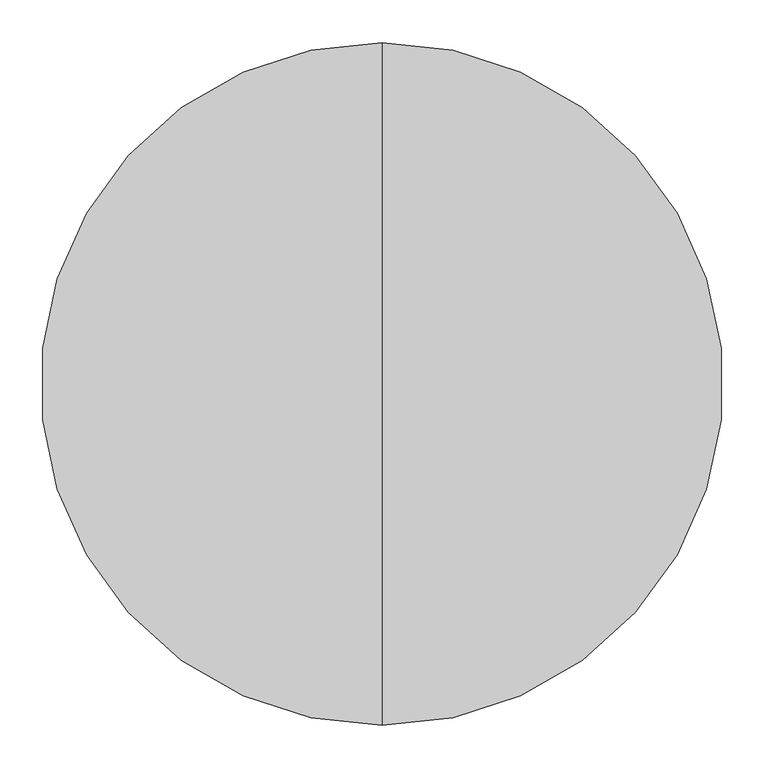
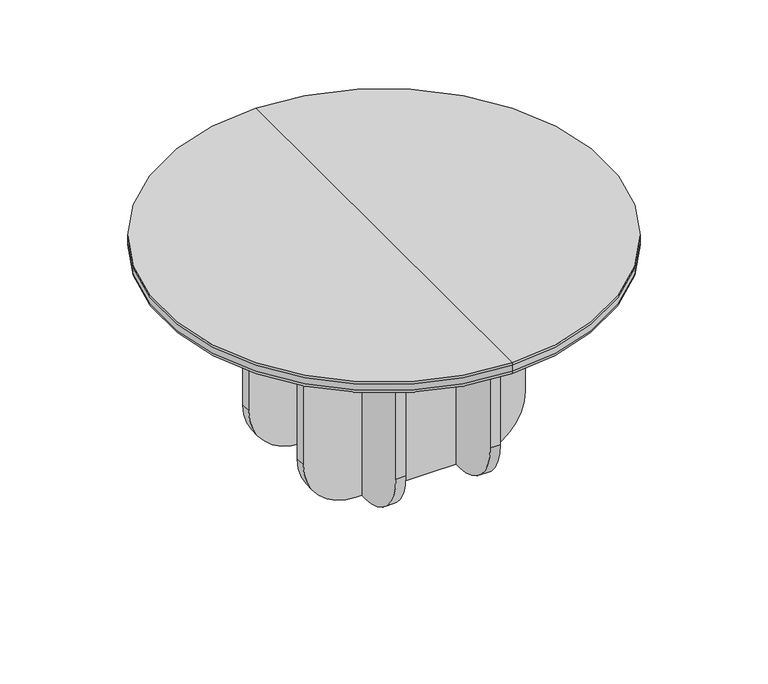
"""IFC4 building model written with IfcOpenShell, lengths in millimetres: furniture geometry, Lundbergs Möbler - Funghi Piccolo - Lounge Table - Round - Ø80 - H40 : Lundbergs Möbler - Funghi Piccolo - Lounge Table - Round - Ø80 - H40."""

from ifc_helpers import new_model, si_unit, point, frame, frame_2d, origin, place, context, project, spatial, polyline, circle_curve, ellipse_curve, trimmed, segment, composite_curve, outline, extrude, source, transform, mapped, element, save
from ifc_brep_helpers import plane_surface, cylinder_surface, revolved_surface, advanced_brep


def furniture_2c49c6e3(model_context):
    return source(origin(), model_context, "Body", "SolidModel", [
        advanced_brep(
        [(0.0, -400.0, 388.5), (0.0, 400.0, 388.5), (0.0, 392.5, 381.0), (0.0, -392.5, 381.0), (0.0, -400.0, 400.0331674), (0.0, 400.0, 400.0331674), (0.0, -400.0, 405.0), (0.0, 400.0, 405.0), (0.0, 0.0, 405.0), (0.0, 0.0, 381.0)],
        [
            (0, 1, circle_curve(frame((0.0, 0.0, 388.5), z_axis=(0.0, 0.0, -1.0), x_axis=(0.0, 1.0, 0.0)), 400.0)),
            (1, 2, circle_curve(frame((0.0, 392.5, 388.5), z_axis=(-1.0, 0.0, 0.0), x_axis=(0.0, -1.0, 0.0)), 7.5)),
            (2, 3, circle_curve(frame((0.0, 0.0, 381.0), z_axis=(0.0, 0.0, 1.0), x_axis=(0.0, 1.0, 0.0)), 392.5)),
            (3, 0, circle_curve(frame((0.0, -392.5, 388.5), z_axis=(-1.0, 0.0, 0.0), x_axis=(0.0, 1.0, 0.0)), 7.5)),
            (1, 0, circle_curve(frame((0.0, 0.0, 388.5), z_axis=(0.0, 0.0, -1.0), x_axis=(0.0, 1.0, 0.0)), 400.0)),
            (3, 2, circle_curve(frame((0.0, 0.0, 381.0), z_axis=(0.0, 0.0, 1.0), x_axis=(0.0, 1.0, 0.0)), 392.5)),
            (4, 5, circle_curve(frame((0.0, 0.0, 400.0331674), z_axis=(0.0, 0.0, -1.0), x_axis=(0.0, 1.0, 0.0)), 400.0)),
            (5, 1),
            (0, 4),
            (5, 4, circle_curve(frame((0.0, 0.0, 400.0331674), z_axis=(0.0, 0.0, -1.0), x_axis=(0.0, 1.0, 0.0)), 400.0)),
            (6, 7, circle_curve(frame((0.0, 0.0, 405.0), z_axis=(0.0, 0.0, -1.0), x_axis=(0.0, 1.0, 0.0)), 400.0)),
            (7, 5),
            (4, 6),
            (7, 6, circle_curve(frame((0.0, 0.0, 405.0), z_axis=(0.0, 0.0, -1.0), x_axis=(0.0, 1.0, 0.0)), 400.0)),
            (8, 7),
            (6, 8),
            (2, 9),
            (9, 3),
        ],
        [
            revolved_surface(trimmed(ellipse_curve(frame((0.0, 392.5, 388.5), z_axis=(1.0, 0.0, 0.0), x_axis=(0.0, -1.0, 0.0)), 7.5, 7.5), [point((0.0, 392.5, 381.0))], [point((0.0, 400.0, 388.5))], True, "CARTESIAN"), (0.0, 0.0, 520.0), (0.0, 0.0, 1.0)),
            cylinder_surface(frame((0.0, 0.0, 520.0), z_axis=(0.0, 0.0, 1.0), x_axis=(0.0, 1.0, 0.0)), 400.0),
            plane_surface(frame((0.0, 0.0, 405.0), z_axis=(0.0, 0.0, 1.0), x_axis=(0.0, 1.0, 0.0))),
            plane_surface(frame((0.0, 0.0, 381.0), z_axis=(0.0, 0.0, -1.0), x_axis=(0.0, 1.0, 0.0))),
        ],
        [
            (0, [[1, 2, 3, 4]]),
            (0, [[5, -4, 6, -2]]),
            (1, [[7, 8, -1, 9]]),
            (1, [[10, -9, -5, -8]]),
            (1, [[11, 12, -7, 13]]),
            (1, [[14, -13, -10, -12]]),
            (2, [[15, -11, 16]]),
            (2, [[-16, -14, -15]]),
            (3, [[-3, 17, 18]]),
            (3, [[-6, -18, -17]]),
        ],
    ),
        extrude(outline(polyline([(150.0, 150.0), (150.0, -150.0), (-150.0, -150.0), (-150.0, 150.0), (150.0, 150.0)]), holes=[polyline([(-110.0, -110.0), (110.0, -110.0), (110.0, 110.0), (-110.0, 110.0), (-110.0, -110.0)])]), frame((0.0, 0.0, 361.0), z_axis=(0.0, 0.0, 1.0), x_axis=(1.0, 0.0, 0.0)), (0.0, 0.0, 1.0), 20.0),
        extrude(outline(composite_curve([segment(polyline([(381.0, -200.0), (95.0, -200.0)]), True, "CONTINUOUS"), segment(trimmed(circle_curve(frame_2d((95.0, -105.0)), 95.0), [point((95.0, -200.0))], [point((0.0, -105.0))], False, "CARTESIAN"), True, "CONTINUOUS"), segment(polyline([(0.0, -105.0), (0.0, 105.0)]), True, "CONTINUOUS"), segment(trimmed(circle_curve(frame_2d((95.0, 105.0)), 95.0), [point((0.0, 105.0))], [point((95.0, 200.0))], False, "CARTESIAN"), True, "CONTINUOUS"), segment(polyline([(95.0, 200.0), (381.0, 200.0), (381.0, -200.0)]), True, "CONTINUOUS")], self_intersect=False)), frame((0.0, 76.0, 0.0), z_axis=(0.0, 1.0, 0.0), x_axis=(0.0, 0.0, 1.0)), (0.0, 0.0, 1.0), 18.0),
        extrude(outline(composite_curve([segment(polyline([(200.0, 381.0), (200.0, 95.0)]), True, "CONTINUOUS"), segment(trimmed(circle_curve(frame_2d((105.0, 95.0)), 95.0), [point((200.0, 95.0))], [point((105.0, 0.0))], False, "CARTESIAN"), True, "CONTINUOUS"), segment(polyline([(105.0, 0.0), (-105.0, 0.0)]), True, "CONTINUOUS"), segment(trimmed(circle_curve(frame_2d((-105.0, 95.0)), 95.0), [point((-105.0, 0.0))], [point((-200.0, 95.0))], False, "CARTESIAN"), True, "CONTINUOUS"), segment(polyline([(-200.0, 95.0), (-200.0, 381.0), (200.0, 381.0)]), True, "CONTINUOUS")], self_intersect=False)), frame((-94.0, 0.0, 0.0), z_axis=(1.0, 0.0, 0.0), x_axis=(0.0, 1.0, 0.0)), (0.0, 0.0, 1.0), 18.0),
        extrude(outline(composite_curve([segment(polyline([(200.0, 381.0), (200.0, 95.0)]), True, "CONTINUOUS"), segment(trimmed(circle_curve(frame_2d((105.0, 95.0)), 95.0), [point((200.0, 95.0))], [point((105.0, 0.0))], False, "CARTESIAN"), True, "CONTINUOUS"), segment(polyline([(105.0, 0.0), (-105.0, 0.0)]), True, "CONTINUOUS"), segment(trimmed(circle_curve(frame_2d((-105.0, 95.0)), 95.0), [point((-105.0, 0.0))], [point((-200.0, 95.0))], False, "CARTESIAN"), True, "CONTINUOUS"), segment(polyline([(-200.0, 95.0), (-200.0, 381.0), (200.0, 381.0)]), True, "CONTINUOUS")], self_intersect=False)), frame((76.0, 0.0, 0.0), z_axis=(1.0, 0.0, 0.0), x_axis=(0.0, 1.0, 0.0)), (0.0, 0.0, 1.0), 18.0),
        extrude(outline(composite_curve([segment(polyline([(381.0, -200.0), (95.0, -200.0)]), True, "CONTINUOUS"), segment(trimmed(circle_curve(frame_2d((95.0, -105.0)), 95.0), [point((95.0, -200.0))], [point((0.0, -105.0))], False, "CARTESIAN"), True, "CONTINUOUS"), segment(polyline([(0.0, -105.0), (0.0, 105.0)]), True, "CONTINUOUS"), segment(trimmed(circle_curve(frame_2d((95.0, 105.0)), 95.0), [point((0.0, 105.0))], [point((95.0, 200.0))], False, "CARTESIAN"), True, "CONTINUOUS"), segment(polyline([(95.0, 200.0), (381.0, 200.0), (381.0, -200.0)]), True, "CONTINUOUS")], self_intersect=False)), frame((0.0, -94.0, 0.0), z_axis=(0.0, 1.0, 0.0), x_axis=(0.0, 0.0, 1.0)), (0.0, 0.0, 1.0), 18.0),
    ])


if __name__ == "__main__":
    model = new_model("IFC4")
    model_context = context("Model", 3, world=origin())
    ifc_project = project(units=[si_unit("LENGTHUNIT", "METRE", prefix="MILLI")], contexts=[model_context])
    site = spatial("IfcSite", under=ifc_project)
    building = spatial("IfcBuilding", under=site)
    placement = place(None, origin())
    furniture_shape = furniture_2c49c6e3(model_context)
    element("IfcFurniture", 1, ObjectType="Lundbergs Möbler - Funghi Piccolo - Lounge Table - Round - Ø80 - H40 : Lundbergs Möbler - Funghi Piccolo - Lounge Table - Round - Ø80 - H40", at=placement, inside=building, context=model_context, shape_type="MappedRepresentation", body=[
        mapped(furniture_shape, transform((0.0, 0.0, 0.0), x_axis=(1.0, 0.0, 0.0), y_axis=(0.0, 1.0, 0.0), z_axis=(0.0, 0.0, 1.0))),
    ])
    save(model, "model.ifc")
